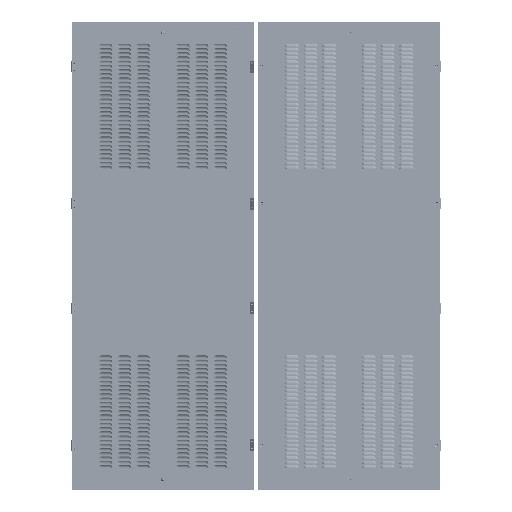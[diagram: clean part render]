
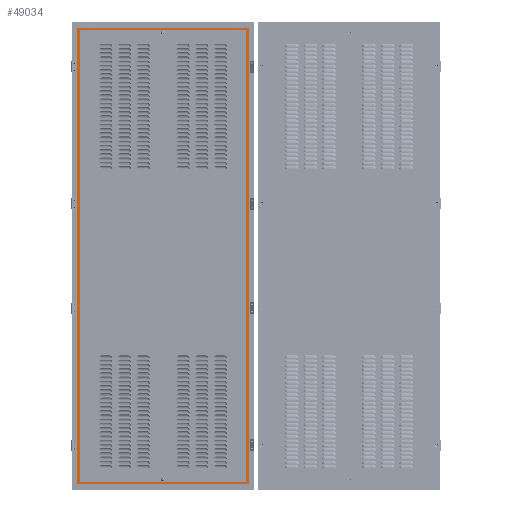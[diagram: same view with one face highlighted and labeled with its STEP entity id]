
A CAD part, top view. The second image highlights one B-rep face of the part: STEP entity #49034.
In plain terms, the highlighted planar face has unit normal (0, 0, 1).
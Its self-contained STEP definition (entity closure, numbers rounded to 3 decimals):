
#1239 = CARTESIAN_POINT ( 'NONE',  ( -354.175, -31.297, -2.05 ) ) ;
#2751 = VECTOR ( 'NONE', #22771, 1000. ) ;
#7322 = ORIENTED_EDGE ( 'NONE', *, *, #157429, .T. ) ;
#10795 = EDGE_LOOP ( 'NONE', ( #59678, #178288, #83359, #164557 ) ) ;
#12179 = CARTESIAN_POINT ( 'NONE',  ( -365.94, -1763.737, -2.05 ) ) ;
#15165 = ORIENTED_EDGE ( 'NONE', *, *, #76446, .T. ) ;
#17511 = ORIENTED_EDGE ( 'NONE', *, *, #144969, .T. ) ;
#19005 = LINE ( 'NONE', #187259, #71190 ) ;
#20432 = CARTESIAN_POINT ( 'NONE',  ( 365.941, -1763.737, -2.05 ) ) ;
#21114 = DIRECTION ( 'NONE',  ( -1., 0., 0. ) ) ;
#22771 = DIRECTION ( 'NONE',  ( 1., 0., 0. ) ) ;
#24343 = VERTEX_POINT ( 'NONE', #135080 ) ;
#24762 = DIRECTION ( 'NONE',  ( 0., -1., 0. ) ) ;
#28171 = DIRECTION ( 'NONE',  ( 0., -1., 0. ) ) ;
#32584 = CARTESIAN_POINT ( 'NONE',  ( -145.5, 177.379, -2.05 ) ) ;
#33097 = CARTESIAN_POINT ( 'NONE',  ( -145.5, -1751.972, -2.05 ) ) ;
#35956 = CARTESIAN_POINT ( 'NONE',  ( 354.175, -1743.297, -2.05 ) ) ;
#36122 = EDGE_LOOP ( 'NONE', ( #110735, #15165, #84524, #158517, #7322, #145122, #17511, #155006, #131339, #99159, #191007, #159517 ) ) ;
#37002 = CARTESIAN_POINT ( 'NONE',  ( -354.175, -1751.972, -2.05 ) ) ;
#38838 = DIRECTION ( 'NONE',  ( 0., -1., 0. ) ) ;
#40676 = VERTEX_POINT ( 'NONE', #214533 ) ;
#42326 = DIRECTION ( 'NONE',  ( -1., 0., 0. ) ) ;
#44957 = DIRECTION ( 'NONE',  ( -1., 0., 0. ) ) ;
#46716 = CARTESIAN_POINT ( 'NONE',  ( 368.3, 177.379, -2.05 ) ) ;
#49034 = ADVANCED_FACE ( 'NONE', ( #210383, #57753 ), #125674, .F. ) ;
#49720 = VECTOR ( 'NONE', #44957, 1000. ) ;
#49852 = EDGE_CURVE ( 'NONE', #141283, #99350, #76129, .T. ) ;
#50003 = LINE ( 'NONE', #46716, #164913 ) ;
#51244 = CARTESIAN_POINT ( 'NONE',  ( 145.5, -1751.972, -2.05 ) ) ;
#51354 = DIRECTION ( 'NONE',  ( 0., 1., 0. ) ) ;
#53153 = VECTOR ( 'NONE', #113841, 1000. ) ;
#54763 = EDGE_CURVE ( 'NONE', #169063, #196301, #165825, .T. ) ;
#57753 = FACE_OUTER_BOUND ( 'NONE', #10795, .T. ) ;
#57842 = VERTEX_POINT ( 'NONE', #92989 ) ;
#58514 = LINE ( 'NONE', #212236, #104894 ) ;
#58820 = EDGE_CURVE ( 'NONE', #217450, #71098, #178667, .T. ) ;
#59101 = VERTEX_POINT ( 'NONE', #37002 ) ;
#59678 = ORIENTED_EDGE ( 'NONE', *, *, #89829, .F. ) ;
#62099 = EDGE_CURVE ( 'NONE', #57842, #24343, #209749, .T. ) ;
#66451 = EDGE_CURVE ( 'NONE', #196301, #86536, #214964, .T. ) ;
#66546 = VECTOR ( 'NONE', #42326, 1000. ) ;
#66608 = VERTEX_POINT ( 'NONE', #12179 ) ;
#68398 = CARTESIAN_POINT ( 'NONE',  ( 145.5, 177.379, -2.05 ) ) ;
#69644 = AXIS2_PLACEMENT_3D ( 'NONE', #123485, #191457, #38838 ) ;
#71098 = VERTEX_POINT ( 'NONE', #33097 ) ;
#71190 = VECTOR ( 'NONE', #51354, 1000. ) ;
#72056 = VERTEX_POINT ( 'NONE', #187364 ) ;
#72932 = LINE ( 'NONE', #193206, #185055 ) ;
#73173 = CARTESIAN_POINT ( 'NONE',  ( 354.175, 177.379, -2.05 ) ) ;
#76129 = LINE ( 'NONE', #144044, #148204 ) ;
#76446 = EDGE_CURVE ( 'NONE', #189544, #168917, #213235, .T. ) ;
#76863 = CARTESIAN_POINT ( 'NONE',  ( 0., 189.144, -2.05 ) ) ;
#83359 = ORIENTED_EDGE ( 'NONE', *, *, #66451, .T. ) ;
#83941 = DIRECTION ( 'NONE',  ( 0., -1., 0. ) ) ;
#84464 = EDGE_CURVE ( 'NONE', #134318, #72056, #147719, .T. ) ;
#84524 = ORIENTED_EDGE ( 'NONE', *, *, #120831, .T. ) ;
#85817 = VECTOR ( 'NONE', #21114, 1000. ) ;
#86474 = LINE ( 'NONE', #140979, #138353 ) ;
#86536 = VERTEX_POINT ( 'NONE', #122790 ) ;
#89829 = EDGE_CURVE ( 'NONE', #169063, #66608, #180736, .T. ) ;
#92706 = CARTESIAN_POINT ( 'NONE',  ( 354.175, -1766.097, -2.05 ) ) ;
#92989 = CARTESIAN_POINT ( 'NONE',  ( 354.175, -1743.297, -2.05 ) ) ;
#93535 = VECTOR ( 'NONE', #24762, 1000. ) ;
#95111 = CARTESIAN_POINT ( 'NONE',  ( 145.5, 177.379, -2.05 ) ) ;
#97272 = CARTESIAN_POINT ( 'NONE',  ( 0., -1751.972, -2.05 ) ) ;
#98655 = CARTESIAN_POINT ( 'NONE',  ( -354.175, -1743.297, -2.05 ) ) ;
#98761 = CARTESIAN_POINT ( 'NONE',  ( -354.175, -1743.297, -2.05 ) ) ;
#99105 = EDGE_CURVE ( 'NONE', #66608, #86536, #58514, .T. ) ;
#99159 = ORIENTED_EDGE ( 'NONE', *, *, #160846, .T. ) ;
#99350 = VERTEX_POINT ( 'NONE', #186488 ) ;
#103918 = VECTOR ( 'NONE', #199307, 1000. ) ;
#104894 = VECTOR ( 'NONE', #194431, 1000. ) ;
#106323 = DIRECTION ( 'NONE',  ( -1., 0., 0. ) ) ;
#110735 = ORIENTED_EDGE ( 'NONE', *, *, #152039, .T. ) ;
#113841 = DIRECTION ( 'NONE',  ( -1., 0., 0. ) ) ;
#116993 = EDGE_CURVE ( 'NONE', #71098, #59101, #72932, .T. ) ;
#118324 = VECTOR ( 'NONE', #120465, 1000. ) ;
#120465 = DIRECTION ( 'NONE',  ( 0., 1., 0. ) ) ;
#120831 = EDGE_CURVE ( 'NONE', #168917, #141283, #50003, .T. ) ;
#122193 = CARTESIAN_POINT ( 'NONE',  ( 365.941, 189.144, -2.05 ) ) ;
#122790 = CARTESIAN_POINT ( 'NONE',  ( -365.94, 189.144, -2.05 ) ) ;
#123485 = CARTESIAN_POINT ( 'NONE',  ( 0., 0., -2.05 ) ) ;
#125674 = PLANE ( 'NONE',  #69644 ) ;
#131339 = ORIENTED_EDGE ( 'NONE', *, *, #116993, .T. ) ;
#131341 = CARTESIAN_POINT ( 'NONE',  ( 365.941, 0., -2.05 ) ) ;
#134318 = VERTEX_POINT ( 'NONE', #98761 ) ;
#135035 = EDGE_CURVE ( 'NONE', #72056, #40676, #150595, .T. ) ;
#135080 = CARTESIAN_POINT ( 'NONE',  ( 354.175, -1751.972, -2.05 ) ) ;
#135765 = CARTESIAN_POINT ( 'NONE',  ( 0., -1763.737, -2.05 ) ) ;
#135905 = LINE ( 'NONE', #51244, #85817 ) ;
#138353 = VECTOR ( 'NONE', #153311, 1000. ) ;
#140979 = CARTESIAN_POINT ( 'NONE',  ( -368.3, 177.379, -2.05 ) ) ;
#141283 = VERTEX_POINT ( 'NONE', #73173 ) ;
#144044 = CARTESIAN_POINT ( 'NONE',  ( 354.175, -31.297, -2.05 ) ) ;
#144969 = EDGE_CURVE ( 'NONE', #24343, #217450, #135905, .T. ) ;
#145122 = ORIENTED_EDGE ( 'NONE', *, *, #62099, .T. ) ;
#147719 = LINE ( 'NONE', #98655, #207641 ) ;
#148204 = VECTOR ( 'NONE', #28171, 1000. ) ;
#150595 = LINE ( 'NONE', #1239, #118324 ) ;
#152039 = EDGE_CURVE ( 'NONE', #40676, #189544, #86474, .T. ) ;
#153311 = DIRECTION ( 'NONE',  ( 1., 0., 0. ) ) ;
#155006 = ORIENTED_EDGE ( 'NONE', *, *, #58820, .T. ) ;
#157429 = EDGE_CURVE ( 'NONE', #99350, #57842, #188565, .T. ) ;
#158517 = ORIENTED_EDGE ( 'NONE', *, *, #49852, .T. ) ;
#158554 = VECTOR ( 'NONE', #83941, 1000. ) ;
#159517 = ORIENTED_EDGE ( 'NONE', *, *, #135035, .T. ) ;
#160846 = EDGE_CURVE ( 'NONE', #59101, #134318, #19005, .T. ) ;
#164557 = ORIENTED_EDGE ( 'NONE', *, *, #99105, .F. ) ;
#164913 = VECTOR ( 'NONE', #165861, 1000. ) ;
#165825 = LINE ( 'NONE', #131341, #103918 ) ;
#165861 = DIRECTION ( 'NONE',  ( 1., 0., 0. ) ) ;
#168917 = VERTEX_POINT ( 'NONE', #68398 ) ;
#169063 = VERTEX_POINT ( 'NONE', #20432 ) ;
#178288 = ORIENTED_EDGE ( 'NONE', *, *, #54763, .T. ) ;
#178667 = LINE ( 'NONE', #97272, #49720 ) ;
#180736 = LINE ( 'NONE', #135765, #53153 ) ;
#185055 = VECTOR ( 'NONE', #106323, 1000. ) ;
#186488 = CARTESIAN_POINT ( 'NONE',  ( 354.175, -31.297, -2.05 ) ) ;
#187259 = CARTESIAN_POINT ( 'NONE',  ( -354.175, -1766.097, -2.05 ) ) ;
#187364 = CARTESIAN_POINT ( 'NONE',  ( -354.175, -31.297, -2.05 ) ) ;
#188565 = LINE ( 'NONE', #35956, #158554 ) ;
#189544 = VERTEX_POINT ( 'NONE', #32584 ) ;
#191007 = ORIENTED_EDGE ( 'NONE', *, *, #84464, .T. ) ;
#191457 = DIRECTION ( 'NONE',  ( 0., 0., -1. ) ) ;
#193206 = CARTESIAN_POINT ( 'NONE',  ( -145.5, -1751.972, -2.05 ) ) ;
#194431 = DIRECTION ( 'NONE',  ( 0., 1., 0. ) ) ;
#196301 = VERTEX_POINT ( 'NONE', #122193 ) ;
#199231 = CARTESIAN_POINT ( 'NONE',  ( 145.5, -1751.972, -2.05 ) ) ;
#199307 = DIRECTION ( 'NONE',  ( 0., 1., 0. ) ) ;
#202259 = DIRECTION ( 'NONE',  ( 0., 1., 0. ) ) ;
#207641 = VECTOR ( 'NONE', #202259, 1000. ) ;
#209749 = LINE ( 'NONE', #92706, #93535 ) ;
#210383 = FACE_BOUND ( 'NONE', #36122, .T. ) ;
#212236 = CARTESIAN_POINT ( 'NONE',  ( -365.94, 0., -2.05 ) ) ;
#213235 = LINE ( 'NONE', #95111, #2751 ) ;
#214533 = CARTESIAN_POINT ( 'NONE',  ( -354.175, 177.379, -2.05 ) ) ;
#214964 = LINE ( 'NONE', #76863, #66546 ) ;
#217450 = VERTEX_POINT ( 'NONE', #199231 ) ;
